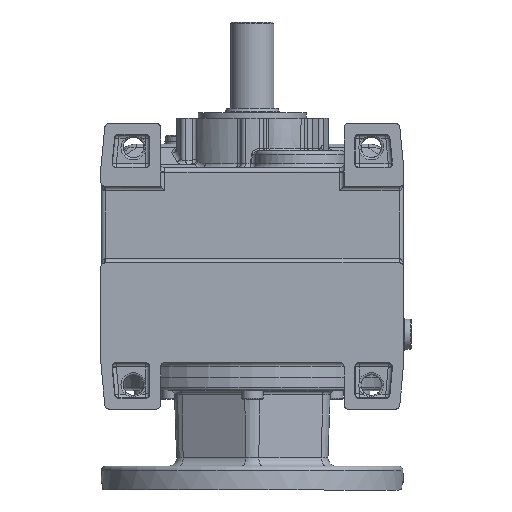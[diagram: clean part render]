
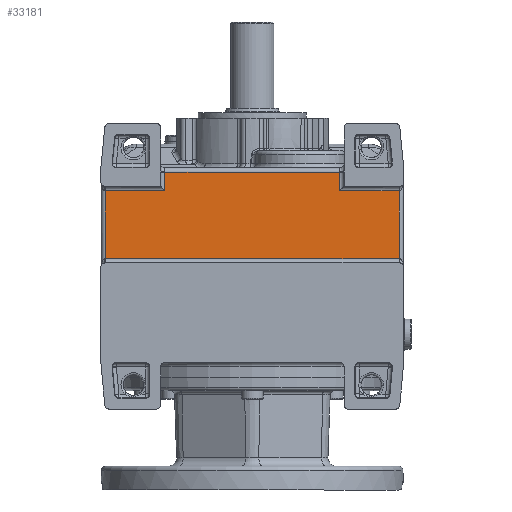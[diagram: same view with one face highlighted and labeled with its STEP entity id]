
A CAD part, front view. The second image highlights one B-rep face of the part: STEP entity #33181.
In plain terms, the highlighted planar face has unit normal (0, -1, 0).
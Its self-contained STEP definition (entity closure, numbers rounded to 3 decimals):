
#32005 = VERTEX_POINT ( 'NONE', #95235 ) ;
#32009 = EDGE_CURVE ( 'NONE', #32011, #32005, #95227, .T. ) ;
#32011 = VERTEX_POINT ( 'NONE', #95223 ) ;
#33044 = ORIENTED_EDGE ( 'NONE', *, *, #33171, .T. ) ;
#33153 = ORIENTED_EDGE ( 'NONE', *, *, #49931, .T. ) ;
#33154 = EDGE_CURVE ( 'NONE', #33167, #33155, #103912, .T. ) ;
#33155 = VERTEX_POINT ( 'NONE', #103908 ) ;
#33157 = ORIENTED_EDGE ( 'NONE', *, *, #33159, .T. ) ;
#33159 = EDGE_CURVE ( 'NONE', #33155, #32011, #103907, .T. ) ;
#33161 = ORIENTED_EDGE ( 'NONE', *, *, #32009, .T. ) ;
#33163 = ORIENTED_EDGE ( 'NONE', *, *, #33154, .T. ) ;
#33165 = VERTEX_POINT ( 'NONE', #103903 ) ;
#33167 = VERTEX_POINT ( 'NONE', #103902 ) ;
#33169 = VERTEX_POINT ( 'NONE', #103901 ) ;
#33171 = EDGE_CURVE ( 'NONE', #33169, #33165, #103900, .T. ) ;
#33173 = ORIENTED_EDGE ( 'NONE', *, *, #33175, .T. ) ;
#33175 = EDGE_CURVE ( 'NONE', #33165, #33167, #103896, .T. ) ;
#33178 = EDGE_LOOP ( 'NONE', ( #33044, #33173, #33163, #33157, #33161, #33153, #49885, #49883 ) ) ;
#33181 = ADVANCED_FACE ( 'NONE', ( #103892 ), #103891, .T. ) ;
#49882 = VERTEX_POINT ( 'NONE', #104646 ) ;
#49883 = ORIENTED_EDGE ( 'NONE', *, *, #49884, .T. ) ;
#49884 = EDGE_CURVE ( 'NONE', #49900, #33169, #104641, .T. ) ;
#49885 = ORIENTED_EDGE ( 'NONE', *, *, #49886, .T. ) ;
#49886 = EDGE_CURVE ( 'NONE', #49882, #49900, #104686, .T. ) ;
#49900 = VERTEX_POINT ( 'NONE', #104709 ) ;
#49931 = EDGE_CURVE ( 'NONE', #32005, #49882, #104761, .T. ) ;
#95223 = CARTESIAN_POINT ( 'NONE',  ( 67.929, -74., -64.93 ) ) ;
#95224 = DIRECTION ( 'NONE',  ( 0., 0., 1. ) ) ;
#95225 = VECTOR ( 'NONE', #95224, 1000. ) ;
#95226 = CARTESIAN_POINT ( 'NONE',  ( 67.929, -74., -113. ) ) ;
#95227 = LINE ( 'NONE', #95226, #95225 ) ;
#95235 = CARTESIAN_POINT ( 'NONE',  ( 67.929, -74., -33.57 ) ) ;
#103891 = PLANE ( 'NONE',  #103946 ) ;
#103892 = FACE_OUTER_BOUND ( 'NONE', #33178, .T. ) ;
#103893 = DIRECTION ( 'NONE',  ( -1., 0., 0. ) ) ;
#103894 = VECTOR ( 'NONE', #103893, 1000. ) ;
#103895 = CARTESIAN_POINT ( 'NONE',  ( -67.929, -74., -33.57 ) ) ;
#103896 = LINE ( 'NONE', #103895, #103894 ) ;
#103897 = DIRECTION ( 'NONE',  ( 0., 0., -1. ) ) ;
#103898 = VECTOR ( 'NONE', #103897, 1000. ) ;
#103899 = CARTESIAN_POINT ( 'NONE',  ( -40.43, -74., -31.5 ) ) ;
#103900 = LINE ( 'NONE', #103899, #103898 ) ;
#103901 = CARTESIAN_POINT ( 'NONE',  ( -40.43, -74., -25. ) ) ;
#103902 = CARTESIAN_POINT ( 'NONE',  ( -67.929, -74., -33.57 ) ) ;
#103903 = CARTESIAN_POINT ( 'NONE',  ( -40.43, -74., -33.57 ) ) ;
#103904 = DIRECTION ( 'NONE',  ( 1., 0., 0. ) ) ;
#103905 = VECTOR ( 'NONE', #103904, 1000. ) ;
#103906 = CARTESIAN_POINT ( 'NONE',  ( 67.929, -74., -64.93 ) ) ;
#103907 = LINE ( 'NONE', #103906, #103905 ) ;
#103908 = CARTESIAN_POINT ( 'NONE',  ( -67.929, -74., -64.93 ) ) ;
#103909 = DIRECTION ( 'NONE',  ( 0., 0., -1. ) ) ;
#103910 = VECTOR ( 'NONE', #103909, 1000. ) ;
#103911 = CARTESIAN_POINT ( 'NONE',  ( -67.929, -74., -113. ) ) ;
#103912 = LINE ( 'NONE', #103911, #103910 ) ;
#103943 = DIRECTION ( 'NONE',  ( 1., 0., 0. ) ) ;
#103944 = DIRECTION ( 'NONE',  ( 0., -1., 0. ) ) ;
#103945 = CARTESIAN_POINT ( 'NONE',  ( -70., -74., -113. ) ) ;
#103946 = AXIS2_PLACEMENT_3D ( 'NONE', #103945, #103944, #103943 ) ;
#104638 = DIRECTION ( 'NONE',  ( -1., 0., 0. ) ) ;
#104639 = VECTOR ( 'NONE', #104638, 1000. ) ;
#104640 = CARTESIAN_POINT ( 'NONE',  ( -67.999, -74., -25. ) ) ;
#104641 = LINE ( 'NONE', #104640, #104639 ) ;
#104646 = CARTESIAN_POINT ( 'NONE',  ( 40.43, -74., -33.57 ) ) ;
#104683 = DIRECTION ( 'NONE',  ( 0., 0., 1. ) ) ;
#104684 = VECTOR ( 'NONE', #104683, 1000. ) ;
#104685 = CARTESIAN_POINT ( 'NONE',  ( 40.43, -74., -25. ) ) ;
#104686 = LINE ( 'NONE', #104685, #104684 ) ;
#104709 = CARTESIAN_POINT ( 'NONE',  ( 40.43, -74., -25. ) ) ;
#104758 = DIRECTION ( 'NONE',  ( -1., 0., 0. ) ) ;
#104759 = VECTOR ( 'NONE', #104758, 1000. ) ;
#104760 = CARTESIAN_POINT ( 'NONE',  ( 40.43, -74., -33.57 ) ) ;
#104761 = LINE ( 'NONE', #104760, #104759 ) ;
